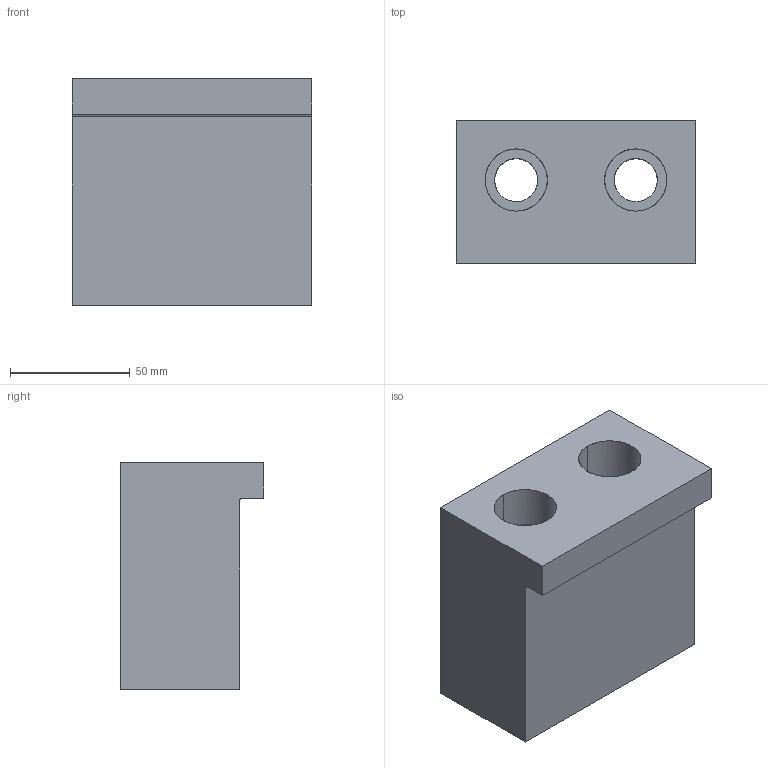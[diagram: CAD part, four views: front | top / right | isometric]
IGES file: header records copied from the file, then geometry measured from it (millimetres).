
Global section: file name: E:\UnigraphicsGraphicData\MISUMI_PRESS-PARTS\IGES\3d_bse100-80_01321_r00.igs; native system: NX V5.0; preprocessor: UGS NX IGES V5.0; author: MISUMI; date: 20110105.160140; units: millimetre
Bounding box: 100 x 60 x 95 mm (x, y, z)
Surface area: 51385.3 mm2 (no closed solid volume)
Topology: 0 solids, 0 shells, 19 faces, 174 edges, 174 vertices
Faces by surface type: bspline 19
